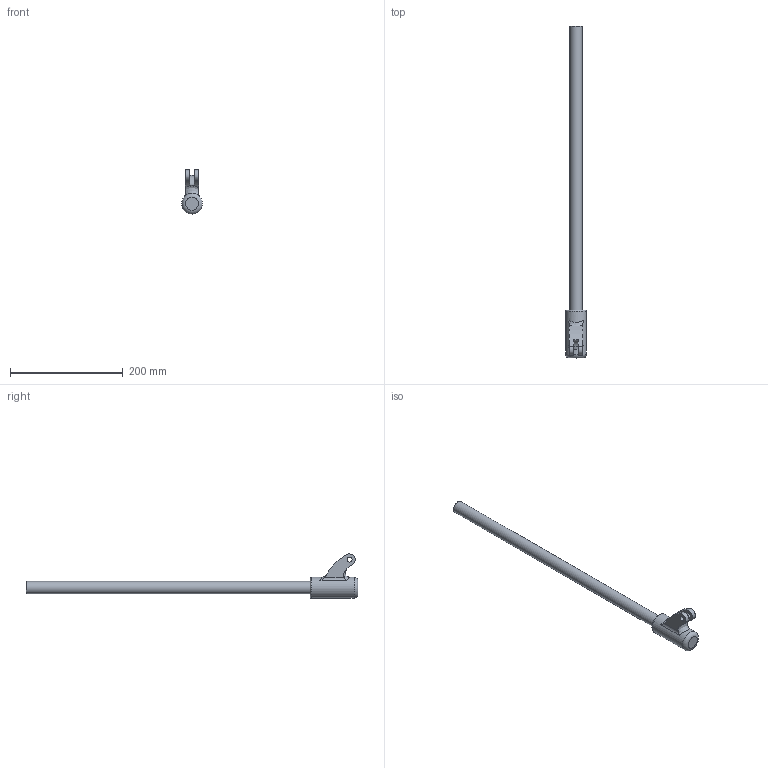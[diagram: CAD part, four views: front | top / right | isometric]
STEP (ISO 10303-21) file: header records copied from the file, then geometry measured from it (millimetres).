
FILE_DESCRIPTION(/* description */ (''),/* implementation_level */ '2;1');
FILE_NAME(/* name */ 'levier_verrin.stp',/* time_stamp */ '2026-09-21T15:08:27+02:00',/* author */ (''),/* organization */ (''),/* preprocessor_version */ 'ST-DEVELOPER v20',/* originating_system */ 'SIEMENS PLM Software NX2406.4001',/* authorisation */ '');
FILE_SCHEMA (('AUTOMOTIVE_DESIGN { 1 0 10303 214 3 1 1 1 }'));
Length unit declared in the file: millimetre
Products named in the file (1): levier_verrin
Bounding box: 37 x 590 x 78.5 mm (x, y, z)
Volume: 163022.7 mm3; surface area: 81893.9 mm2
Topology: 1 solids, 1 shells, 24 faces, 57 edges, 38 vertices
Faces by surface type: cylinder 12, plane 8, bspline 2, torus 2
Full cylindrical faces by diameter (mm): 9 x2, 19 x1, 22 x1, 37 x1
Entity records: 810 total; most frequent: CARTESIAN_POINT 265, DIRECTION 108, ORIENTED_EDGE 96, AXIS2_PLACEMENT_3D 49, EDGE_CURVE 48, EDGE_LOOP 38, VERTEX_POINT 36, FACE_BOUND 27
